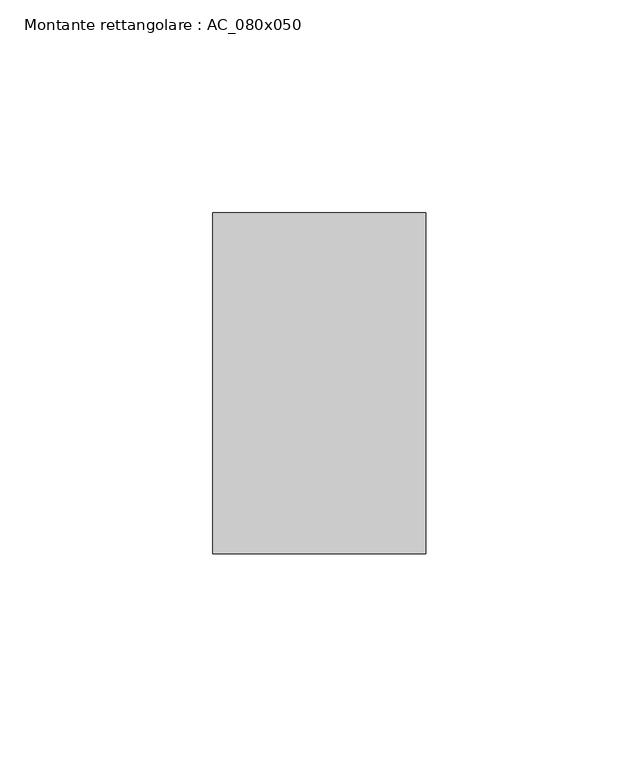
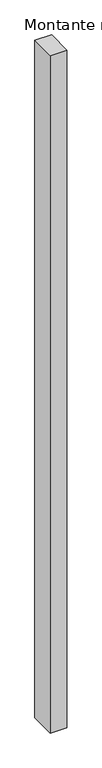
"""IFC4 building model written with IfcOpenShell, lengths in millimetres: member geometry, Montante rettangolare : AC_080x050."""

from ifc_helpers import new_model, si_unit, frame, origin, place, context, project, spatial, polyline, outline, extrude, source, transform, mapped, element, save


def montante_rettangolare_ac_080x050_322f2117(model_context):
    return source(origin(), model_context, "Body", "SweptSolid", [
        extrude(outline(polyline([(0.0, 40.0), (0.0, -40.0), (-50.0, -40.0), (-50.0, 40.0), (0.0, 40.0)])), frame((0.0, 0.0, -2157.5840728), z_axis=(0.0, 0.0, 1.0), x_axis=(1.0, 0.0, 0.0)), (0.0, 0.0, 1.0), 2157.5840728),
    ])


if __name__ == "__main__":
    model = new_model("IFC4")
    model_context = context("Model", 3, world=origin())
    ifc_project = project(units=[si_unit("LENGTHUNIT", "METRE", prefix="MILLI")], contexts=[model_context])
    site = spatial("IfcSite", under=ifc_project)
    building = spatial("IfcBuilding", under=site)
    placement = place(None, origin())
    montante_rettangolare_ac_080x050_shape = montante_rettangolare_ac_080x050_322f2117(model_context)
    element("IfcMember", 1, ObjectType="Montante rettangolare : AC_080x050", at=placement, inside=building, context=model_context, shape_type="MappedRepresentation", body=[
        mapped(montante_rettangolare_ac_080x050_shape, transform((0.0, 0.0, 0.0), x_axis=(1.0, 0.0, 0.0), y_axis=(0.0, 1.0, 0.0), z_axis=(0.0, 0.0, 1.0))),
    ])
    save(model, "model.ifc")
